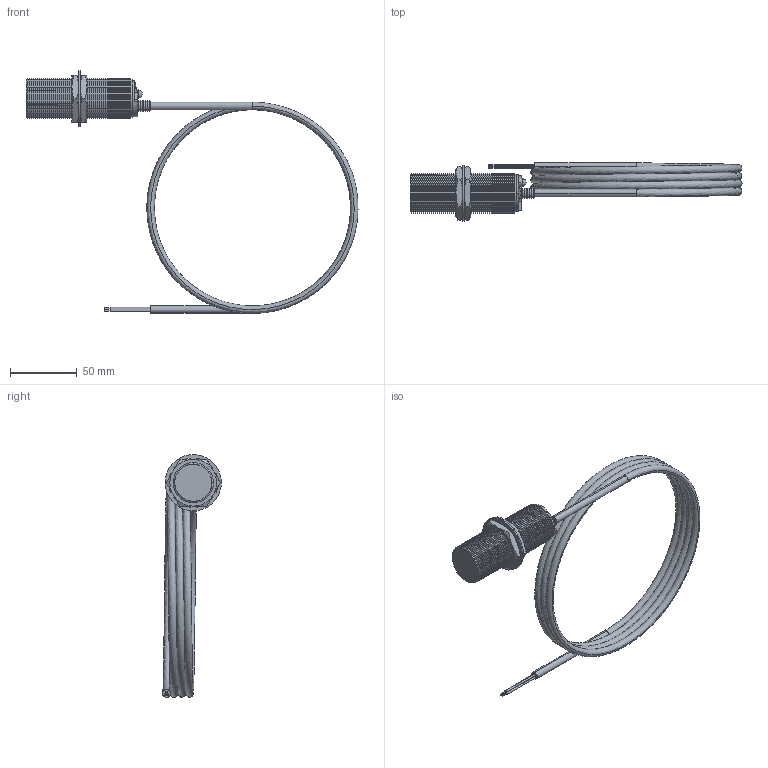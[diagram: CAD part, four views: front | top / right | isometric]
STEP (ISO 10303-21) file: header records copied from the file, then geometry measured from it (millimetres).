
FILE_DESCRIPTION (( 'STEP AP203' ), '1' );
FILE_NAME ('90-29417-065.STEP', '2015-11-16T00:47:47', ( 'Sam' ), ( 'Spade' ), 'SwSTEP 2.0', 'SolidWorks 2002296', '' );
FILE_SCHEMA (( 'CONFIG_CONTROL_DESIGN' ));
Length unit declared in the file: inch
Products named in the file (18): 90-29417-065; Imported107; Imported110; Imported109; Imported108; Imported114; Imported113; Imported112; Imported111; Imported117; Imported116; Imported115; Imported122; Imported121; Imported120; Imported119; Imported118; Imported123
Assembly tree (17 placements, depth 2):
  90-29417-065
    Imported110
    Imported121
    Imported123
    Imported115
    Imported108
    Imported114
    Imported120
    Imported107
    Imported117
    Imported109
    Imported111
    Imported118
    Imported112
    Imported122
    Imported113
    Imported116
    Imported119
Bounding box: 248.63 x 43.98 x 181.8 mm (x, y, z)
Volume: 107091.3 mm3; surface area: 55816.4 mm2
Topology: 17 solids, 17 shells, 542 faces, 1267 edges, 765 vertices
Faces by surface type: cone 261, cylinder 180, plane 96, bspline 5
Entity records: 18547 total; most frequent: CARTESIAN_POINT 3831, DIRECTION 2966, ORIENTED_EDGE 2530, EDGE_CURVE 1265, AXIS2_PLACEMENT_3D 1206, VERTEX_POINT 765, CIRCLE 649, EDGE_LOOP 558
